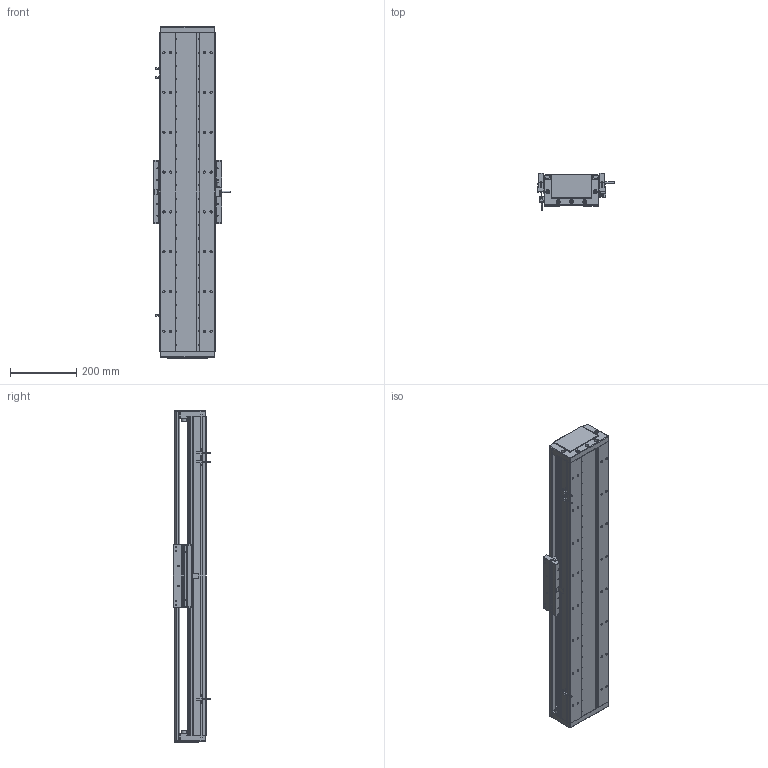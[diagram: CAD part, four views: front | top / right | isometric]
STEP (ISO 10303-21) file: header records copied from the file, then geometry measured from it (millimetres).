
FILE_DESCRIPTION (( 'STEP AP203' ), '1' );
FILE_NAME ('DA-C165-C2-T720-C010-0.2 直线电机.STEP', '2023-05-11T07:31:48', ( '微软用户' ), ( '微软中国' ), 'SwSTEP 2.0', 'SolidWorks 2019', '' );
FILE_SCHEMA (( 'CONFIG_CONTROL_DESIGN' ));
Length unit declared in the file: millimetre
Products named in the file (15): 珨极趙賑雄怢啣wf-C2; IU-CU165-L 菁釱絳寢; 复件 DA165-DG-H-N-00 端盖^DA-C165-C2-T-C010-0.2-N 直线电机; 葩璃 PM-T45^DA-C165-C2-T-C010-0.2-N 眻盄萇儂; 复件 DA165-GYP-00 光电感应片^DA-C165-C2-T-C010-0.2-N 直线电机; 复件 XD-U-02L 磁栅尺^DA-C165-C2-T-C010-0.2-N 直线电机_T; 复件 DA165-T-002-00 盖板^DA-C165-C2-T-C010-0.2-N 直线电机_0840-002-00; DA-C165-C2-T720-C010-0.2 眻盄萇儂; 复件 六角薄螺母 M3^DA-C165-C2-T-C010-0.2-N 直线电机_GB_FASTENER_NUT_STNAB M3-C; IU-CU165-L-00 菁釱_L960; 葩璃 CKM01-W075-TRL^DA-C165-C2-T-C010-0.2-N 眻盄萇儂; 复件 DA95-HXJ-00 缓冲橡胶^DA-C165-C2-T-C010-0.2-N 直线电机; 葩璃 DA95-GT-T-00^IU-CU165-L 菁釱絳寢_T; 复件 CKM02-W075-C1C2-TP-3.0 一体电机-C2^DA-C165-C2-T-C010-0.2-N 直线电机; 复件 DMA-010-0.2 读数头^DA-C165-C2-T-C010-0.2-N 直线电机
Assembly tree (28 placements, depth 3):
  DA-C165-C2-T720-C010-0.2 眻盄萇儂
    IU-CU165-L 菁釱絳寢
      IU-CU165-L-00 菁釱_L960
      葩璃 DA95-GT-T-00^IU-CU165-L 菁釱絳寢_T  x4
    复件 DA165-DG-H-N-00 端盖^DA-C165-C2-T-C010-0.2-N 直线电机  x2
    复件 DA95-HXJ-00 缓冲橡胶^DA-C165-C2-T-C010-0.2-N 直线电机  x4
    复件 DA165-T-002-00 盖板^DA-C165-C2-T-C010-0.2-N 直线电机_0840-002-00
    复件 XD-U-02L 磁栅尺^DA-C165-C2-T-C010-0.2-N 直线电机_T
    葩璃 PM-T45^DA-C165-C2-T-C010-0.2-N 眻盄萇儂  x3
    葩璃 CKM01-W075-TRL^DA-C165-C2-T-C010-0.2-N 眻盄萇儂
    复件 DA165-GYP-00 光电感应片^DA-C165-C2-T-C010-0.2-N 直线电机
    复件 DMA-010-0.2 读数头^DA-C165-C2-T-C010-0.2-N 直线电机
    复件 CKM02-W075-C1C2-TP-3.0 一体电机-C2^DA-C165-C2-T-C010-0.2-N 直线电机
    复件 六角薄螺母 M3^DA-C165-C2-T-C010-0.2-N 直线电机_GB_FASTENER_NUT_STNAB M3-C  x6
    珨极趙賑雄怢啣wf-C2
Bounding box: 233 x 111.45 x 1000 mm (x, y, z)
Volume: 7450113.4 mm3; surface area: 2018659.2 mm2
Topology: 66 solids, 66 shells, 3040 faces, 8270 edges, 5177 vertices
Faces by surface type: cylinder 1519, plane 1057, cone 406, torus 54, sphere 4
Entity records: 90445 total; most frequent: CARTESIAN_POINT 20746, DIRECTION 14394, ORIENTED_EDGE 14014, EDGE_CURVE 7007, AXIS2_PLACEMENT_3D 5395, VERTEX_POINT 4513, LINE 3604, VECTOR 3604
